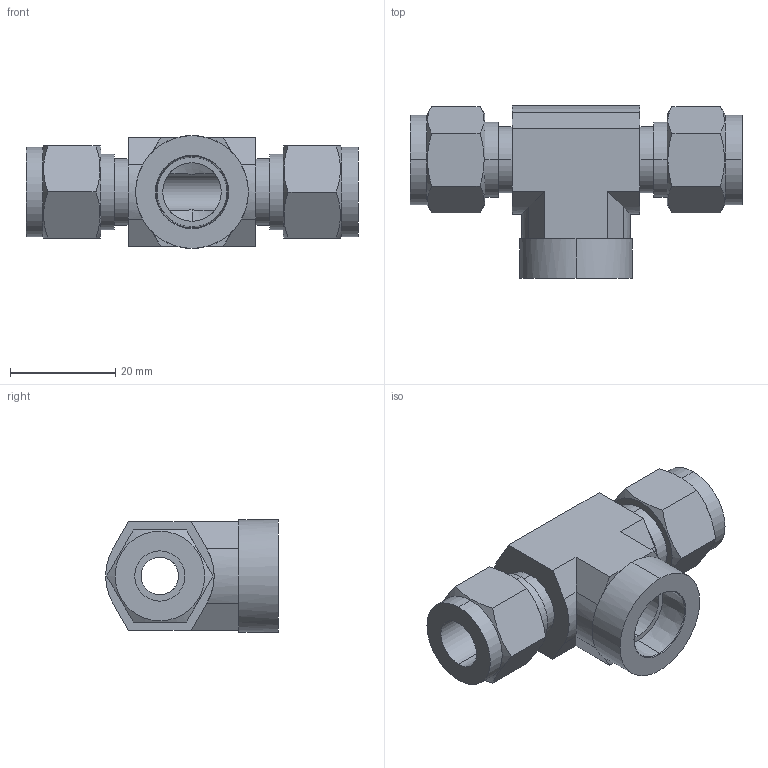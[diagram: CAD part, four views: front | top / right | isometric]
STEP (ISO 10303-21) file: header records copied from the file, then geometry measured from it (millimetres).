
FILE_DESCRIPTION (( 'STEP AP203' ), '1' );
FILE_NAME ('DTH06-04 SS.STEP', '2009-10-26T05:48:25', ( ' ' ), ( '' ), 'SwSTEP 2.0', 'SolidWorks 2008', '' );
FILE_SCHEMA (( 'CONFIG_CONTROL_DESIGN' ));
Length unit declared in the file: millimetre
Products named in the file (1): DTH06-04 SS
Bounding box: 63 x 32.8 x 21.4 mm (x, y, z)
Volume: 16404.3 mm3; surface area: 8161.3 mm2
Topology: 1 solids, 1 shells, 87 faces, 208 edges, 131 vertices
Faces by surface type: plane 44, cylinder 28, cone 15
Entity records: 2880 total; most frequent: CARTESIAN_POINT 794, ORIENTED_EDGE 416, DIRECTION 415, EDGE_CURVE 208, AXIS2_PLACEMENT_3D 158, VERTEX_POINT 131, EDGE_LOOP 99, VECTOR 99
